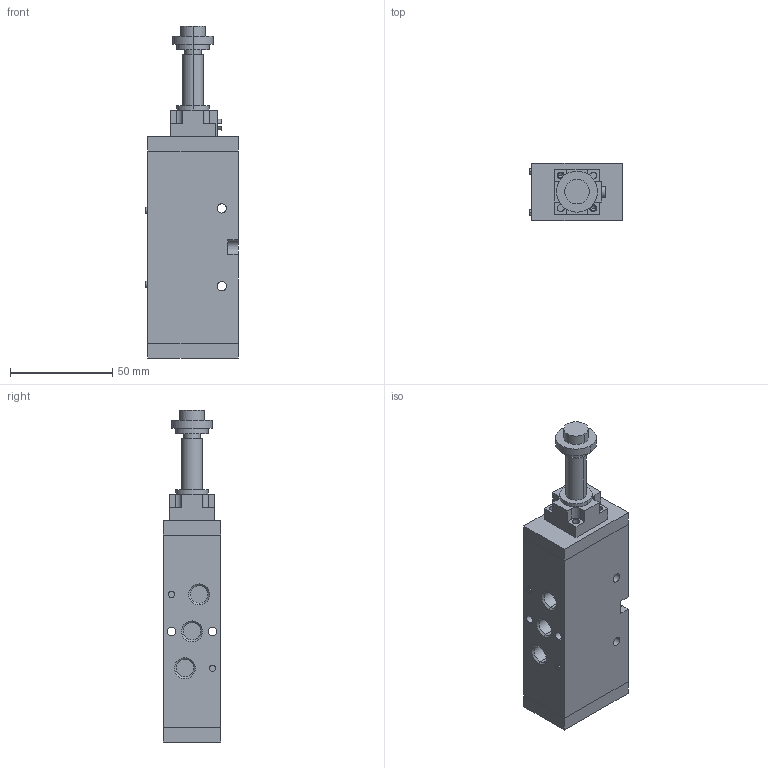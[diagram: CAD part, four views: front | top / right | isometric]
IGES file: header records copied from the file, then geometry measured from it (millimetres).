
Global section: file name: No Iges File Name specified; native system: AutoDesk Inventor R11.0; preprocessor: AutoDesk Inventor Iges Exporter R11.0; author: No Author specified; organization: No Organization specified; date: 20061201.120924; units: millimetre
Bounding box: 45 x 28 x 162 mm (x, y, z)
Volume: 137388.1 mm3; surface area: 25782.8 mm2
Topology: 2 solids, 2 shells, 149 faces, 356 edges, 228 vertices
Faces by surface type: plane 62, bspline 51, revolution 18, cylinder 18
